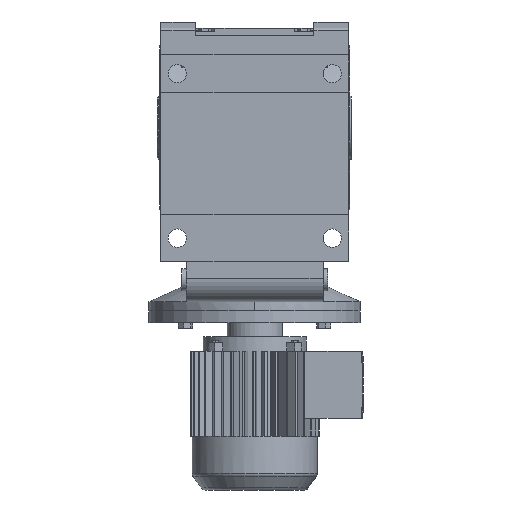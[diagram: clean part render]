
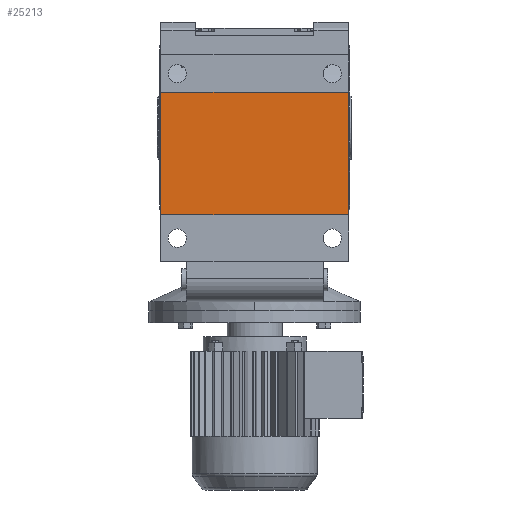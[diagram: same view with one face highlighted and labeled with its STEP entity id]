
A CAD part, front view. The second image highlights one B-rep face of the part: STEP entity #25213.
In plain terms, the highlighted planar face has unit normal (0, -1, 0).
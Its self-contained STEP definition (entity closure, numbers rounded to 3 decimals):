
#10103 = PLANE('',#10104);
#10104 = AXIS2_PLACEMENT_3D('',#10105,#10106,#10107);
#10105 = CARTESIAN_POINT('',(200.,-312.875,176.));
#10106 = DIRECTION('',(1.,0.,0.));
#10107 = DIRECTION('',(0.,0.,-1.));
#11310 = PLANE('',#11311);
#11311 = AXIS2_PLACEMENT_3D('',#11312,#11313,#11314);
#11312 = CARTESIAN_POINT('',(-200.,-312.875,176.));
#11313 = DIRECTION('',(1.,0.,0.));
#11314 = DIRECTION('',(0.,0.,-1.));
#16619 = VERTEX_POINT('',#16620);
#16620 = CARTESIAN_POINT('',(200.,-361.875,75.));
#16634 = PLANE('',#16635);
#16635 = AXIS2_PLACEMENT_3D('',#16636,#16637,#16638);
#16636 = CARTESIAN_POINT('',(200.,-361.875,75.));
#16637 = DIRECTION('',(0.,0.,1.));
#16638 = DIRECTION('',(1.,0.,0.));
#16646 = EDGE_CURVE('',#16619,#16647,#16649,.T.);
#16647 = VERTEX_POINT('',#16648);
#16648 = CARTESIAN_POINT('',(200.,-361.875,-185.));
#16649 = SURFACE_CURVE('',#16650,(#16654,#16661),.PCURVE_S1.);
#16650 = LINE('',#16651,#16652);
#16651 = CARTESIAN_POINT('',(200.,-361.875,75.));
#16652 = VECTOR('',#16653,1.);
#16653 = DIRECTION('',(0.,0.,-1.));
#16654 = PCURVE('',#10103,#16655);
#16655 = DEFINITIONAL_REPRESENTATION('',(#16656),#16660);
#16656 = LINE('',#16657,#16658);
#16657 = CARTESIAN_POINT('',(101.,-49.));
#16658 = VECTOR('',#16659,1.);
#16659 = DIRECTION('',(1.,0.));
#16660 = ( GEOMETRIC_REPRESENTATION_CONTEXT(2) 
PARAMETRIC_REPRESENTATION_CONTEXT() REPRESENTATION_CONTEXT('2D SPACE',''
  ) );
#16661 = PCURVE('',#16662,#16667);
#16662 = PLANE('',#16663);
#16663 = AXIS2_PLACEMENT_3D('',#16664,#16665,#16666);
#16664 = CARTESIAN_POINT('',(-145.5,-361.875,180.));
#16665 = DIRECTION('',(0.,-1.,0.));
#16666 = DIRECTION('',(0.,0.,-1.));
#16667 = DEFINITIONAL_REPRESENTATION('',(#16668),#16672);
#16668 = LINE('',#16669,#16670);
#16669 = CARTESIAN_POINT('',(105.,345.5));
#16670 = VECTOR('',#16671,1.);
#16671 = DIRECTION('',(1.,0.));
#16672 = ( GEOMETRIC_REPRESENTATION_CONTEXT(2) 
PARAMETRIC_REPRESENTATION_CONTEXT() REPRESENTATION_CONTEXT('2D SPACE',''
  ) );
#16690 = PLANE('',#16691);
#16691 = AXIS2_PLACEMENT_3D('',#16692,#16693,#16694);
#16692 = CARTESIAN_POINT('',(200.,-361.875,-185.));
#16693 = DIRECTION('',(0.,0.,-1.));
#16694 = DIRECTION('',(-1.,0.,0.));
#17879 = VERTEX_POINT('',#17880);
#17880 = CARTESIAN_POINT('',(-200.,-361.875,-185.));
#17901 = EDGE_CURVE('',#17902,#17879,#17904,.T.);
#17902 = VERTEX_POINT('',#17903);
#17903 = CARTESIAN_POINT('',(-200.,-361.875,75.));
#17904 = SURFACE_CURVE('',#17905,(#17909,#17916),.PCURVE_S1.);
#17905 = LINE('',#17906,#17907);
#17906 = CARTESIAN_POINT('',(-200.,-361.875,75.));
#17907 = VECTOR('',#17908,1.);
#17908 = DIRECTION('',(0.,0.,-1.));
#17909 = PCURVE('',#11310,#17910);
#17910 = DEFINITIONAL_REPRESENTATION('',(#17911),#17915);
#17911 = LINE('',#17912,#17913);
#17912 = CARTESIAN_POINT('',(101.,-49.));
#17913 = VECTOR('',#17914,1.);
#17914 = DIRECTION('',(1.,0.));
#17915 = ( GEOMETRIC_REPRESENTATION_CONTEXT(2) 
PARAMETRIC_REPRESENTATION_CONTEXT() REPRESENTATION_CONTEXT('2D SPACE',''
  ) );
#17916 = PCURVE('',#16662,#17917);
#17917 = DEFINITIONAL_REPRESENTATION('',(#17918),#17922);
#17918 = LINE('',#17919,#17920);
#17919 = CARTESIAN_POINT('',(105.,-54.5));
#17920 = VECTOR('',#17921,1.);
#17921 = DIRECTION('',(1.,0.));
#17922 = ( GEOMETRIC_REPRESENTATION_CONTEXT(2) 
PARAMETRIC_REPRESENTATION_CONTEXT() REPRESENTATION_CONTEXT('2D SPACE',''
  ) );
#24939 = EDGE_CURVE('',#16619,#17902,#24940,.T.);
#24940 = SURFACE_CURVE('',#24941,(#24945,#24952),.PCURVE_S1.);
#24941 = LINE('',#24942,#24943);
#24942 = CARTESIAN_POINT('',(200.,-361.875,75.));
#24943 = VECTOR('',#24944,1.);
#24944 = DIRECTION('',(-1.,0.,0.));
#24945 = PCURVE('',#16634,#24946);
#24946 = DEFINITIONAL_REPRESENTATION('',(#24947),#24951);
#24947 = LINE('',#24948,#24949);
#24948 = CARTESIAN_POINT('',(0.,0.));
#24949 = VECTOR('',#24950,1.);
#24950 = DIRECTION('',(-1.,0.));
#24951 = ( GEOMETRIC_REPRESENTATION_CONTEXT(2) 
PARAMETRIC_REPRESENTATION_CONTEXT() REPRESENTATION_CONTEXT('2D SPACE',''
  ) );
#24952 = PCURVE('',#16662,#24953);
#24953 = DEFINITIONAL_REPRESENTATION('',(#24954),#24958);
#24954 = LINE('',#24955,#24956);
#24955 = CARTESIAN_POINT('',(105.,345.5));
#24956 = VECTOR('',#24957,1.);
#24957 = DIRECTION('',(0.,-1.));
#24958 = ( GEOMETRIC_REPRESENTATION_CONTEXT(2) 
PARAMETRIC_REPRESENTATION_CONTEXT() REPRESENTATION_CONTEXT('2D SPACE',''
  ) );
#25039 = EDGE_CURVE('',#16647,#17879,#25040,.T.);
#25040 = SURFACE_CURVE('',#25041,(#25045,#25052),.PCURVE_S1.);
#25041 = LINE('',#25042,#25043);
#25042 = CARTESIAN_POINT('',(200.,-361.875,-185.));
#25043 = VECTOR('',#25044,1.);
#25044 = DIRECTION('',(-1.,0.,0.));
#25045 = PCURVE('',#16690,#25046);
#25046 = DEFINITIONAL_REPRESENTATION('',(#25047),#25051);
#25047 = LINE('',#25048,#25049);
#25048 = CARTESIAN_POINT('',(0.,0.));
#25049 = VECTOR('',#25050,1.);
#25050 = DIRECTION('',(1.,0.));
#25051 = ( GEOMETRIC_REPRESENTATION_CONTEXT(2) 
PARAMETRIC_REPRESENTATION_CONTEXT() REPRESENTATION_CONTEXT('2D SPACE',''
  ) );
#25052 = PCURVE('',#16662,#25053);
#25053 = DEFINITIONAL_REPRESENTATION('',(#25054),#25058);
#25054 = LINE('',#25055,#25056);
#25055 = CARTESIAN_POINT('',(365.,345.5));
#25056 = VECTOR('',#25057,1.);
#25057 = DIRECTION('',(0.,-1.));
#25058 = ( GEOMETRIC_REPRESENTATION_CONTEXT(2) 
PARAMETRIC_REPRESENTATION_CONTEXT() REPRESENTATION_CONTEXT('2D SPACE',''
  ) );
#25213 = ADVANCED_FACE('',(#25214),#16662,.T.);
#25214 = FACE_BOUND('',#25215,.T.);
#25215 = EDGE_LOOP('',(#25216,#25217,#25218,#25219));
#25216 = ORIENTED_EDGE('',*,*,#17901,.T.);
#25217 = ORIENTED_EDGE('',*,*,#25039,.F.);
#25218 = ORIENTED_EDGE('',*,*,#16646,.F.);
#25219 = ORIENTED_EDGE('',*,*,#24939,.T.);
